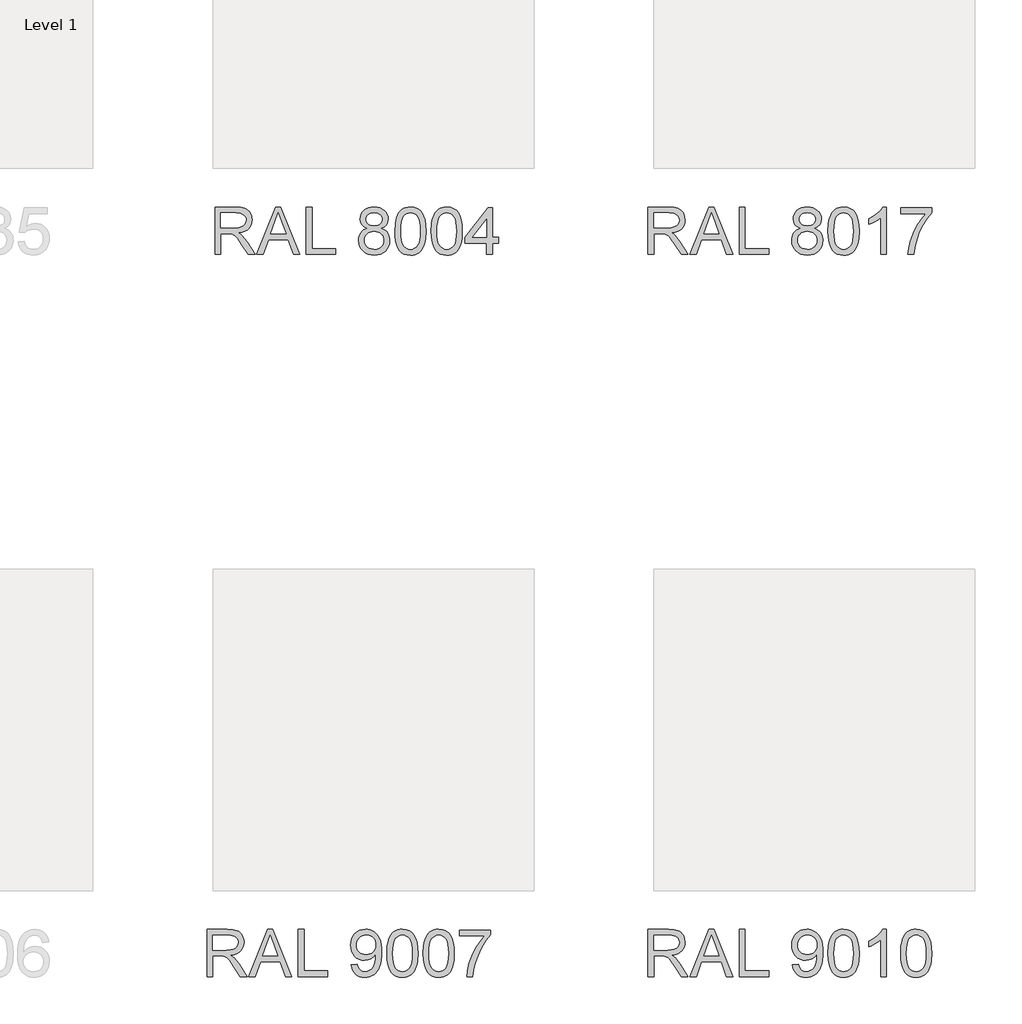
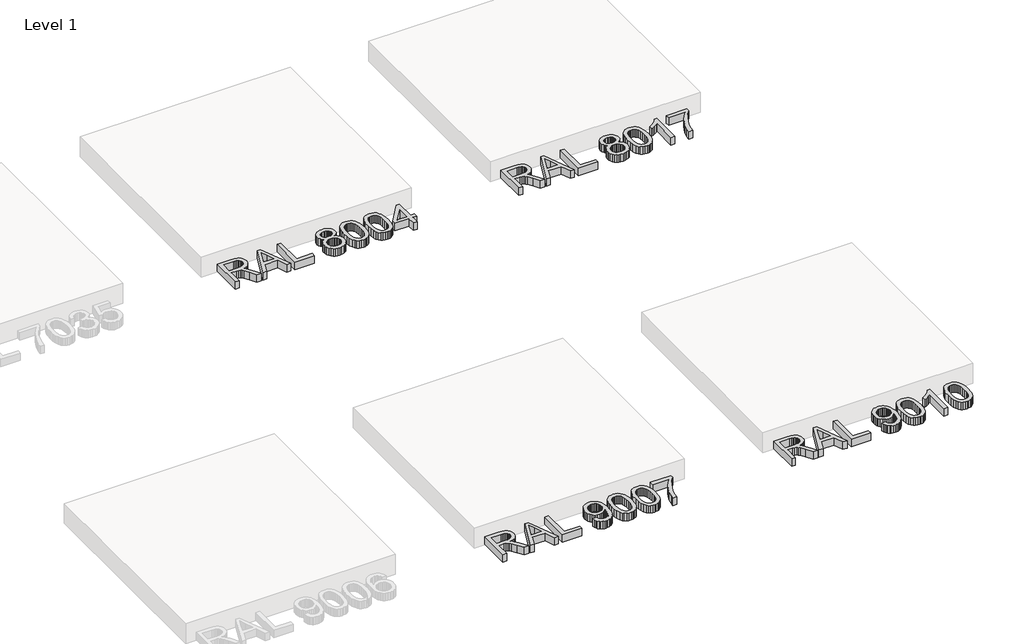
# One storey, part 14 of 27: 4 proxies.
"""IFC4 building model written with IfcOpenShell, lengths in millimetres."""

import ifcopenshell
import ifcopenshell.guid

model = None  # the IFC model being written
_history = None  # IfcOwnerHistory: only IFC2X3 demands one
_inside = {}  # id of a spatial element -> (the spatial element, [elements in it])
_under = {}  # id of a project, library or spatial element -> (it, [spatial elements below it])
_declared = {}  # id of a project -> (the project, [libraries it declares])
_typed = {}  # id of a type object -> (the type object, [elements of that type])
_made_of = {}  # id of a material, layer set ... -> (it, [elements and type objects made of it])


def new_model(schema):
    """Start an empty IFC model of exactly this schema.

    Asked for "IFC4X3", IfcOpenShell would pick the latest addendum, in which some entities
    have other attributes; the version numbers below select the first issue.
    IFC2X3 requires an IfcOwnerHistory on every rooted entity: one is made here for all.
    """
    global model, _history
    if schema == "IFC4X3":
        model = ifcopenshell.file(schema_version=(4, 3, 0, 0))
    else:
        model = ifcopenshell.file(schema=schema)
    _inside.clear()
    _under.clear()
    _declared.clear()
    _typed.clear()
    _made_of.clear()
    _history = None
    if model.schema == "IFC2X3":
        org = make("IfcOrganization", Name="unknown")
        user = make(
            "IfcPersonAndOrganization",
            ThePerson=make("IfcPerson", FamilyName="unknown"),
            TheOrganization=org,
        )
        app = make(
            "IfcApplication",
            ApplicationDeveloper=org,
            Version="unknown",
            ApplicationFullName="unknown",
            ApplicationIdentifier="unknown",
        )
        _history = make(
            "IfcOwnerHistory",
            OwningUser=user,
            OwningApplication=app,
            ChangeAction="ADDED",
            CreationDate=0,
        )
    return model


def make(cls, **values):
    """One entity of the class cls with the attributes given. An attribute that is None is left unset."""
    return model.create_entity(
        cls, **{name: value for name, value in values.items() if value is not None}
    )


def rooted(cls, **values):
    """An entity with a GlobalId (a new one), such as an element, a storey or a relation."""
    return make(cls, GlobalId=ifcopenshell.guid.new(), OwnerHistory=_history, **values)


def si_unit(unit_type, name, prefix=None):
    """IfcSIUnit, for example si_unit("LENGTHUNIT", "METRE", prefix="MILLI")."""
    return make("IfcSIUnit", UnitType=unit_type, Prefix=prefix, Name=name)


def assignment(units):
    """IfcUnitAssignment: the units of a project."""
    return None if units is None else make("IfcUnitAssignment", Units=units)


def point(xyz):
    """IfcCartesianPoint."""
    return None if xyz is None else make("IfcCartesianPoint", Coordinates=xyz)


def direction(xyz):
    """IfcDirection."""
    return None if xyz is None else make("IfcDirection", DirectionRatios=xyz)


def frame(location, z_axis=None, x_axis=None):
    """IfcAxis2Placement3D, a coordinate frame: its origin and axes. An axis left out is left unset."""
    return make(
        "IfcAxis2Placement3D",
        Location=point(location),
        Axis=direction(z_axis),
        RefDirection=direction(x_axis),
    )


def origin():
    """The frame at (0, 0, 0) with its axes left unset."""
    return frame((0.0, 0.0, 0.0))


def origin_with_axes():
    """The frame at (0, 0, 0) with the z axis (0, 0, 1) and the x axis (1, 0, 0) written out."""
    return frame((0.0, 0.0, 0.0), z_axis=(0.0, 0.0, 1.0), x_axis=(1.0, 0.0, 0.0))


def place(relative_to, where):
    """IfcLocalPlacement: puts the frame where relative to a parent placement (None: the world)."""
    return make(
        "IfcLocalPlacement", PlacementRelTo=relative_to, RelativePlacement=where
    )


def context(
    kind, dimensions, precision=None, world=None, true_north=None, identifier=None
):
    """IfcGeometricRepresentationContext, for example the 3D "Model" context."""
    return make(
        "IfcGeometricRepresentationContext",
        ContextIdentifier=identifier,
        ContextType=kind,
        CoordinateSpaceDimension=dimensions,
        Precision=precision,
        WorldCoordinateSystem=world,
        TrueNorth=true_north,
    )


def project(units=None, contexts=None):
    """IfcProject with its units and contexts."""
    return rooted(
        "IfcProject",
        Name="project",
        RepresentationContexts=contexts,
        UnitsInContext=assignment(units),
    )


def spatial(cls, under=None, at=None, **own):
    """A site, building, storey or space (cls), placed at a placement, below another one or the project."""
    s = rooted(cls, ObjectPlacement=at, **own)
    if under is not None:
        _under.setdefault(under.id(), (under, []))[1].append(s)
    return s


def polyline(points):
    """IfcPolyline through the points."""
    return make("IfcPolyline", Points=[point(p) for p in points])


def outline(outer, holes=None, kind="AREA"):
    """IfcArbitraryClosedProfileDef: a profile drawn as a closed curve; with holes, ...WithVoids."""
    if holes is None:
        return make("IfcArbitraryClosedProfileDef", ProfileType=kind, OuterCurve=outer)
    return make(
        "IfcArbitraryProfileDefWithVoids",
        ProfileType=kind,
        OuterCurve=outer,
        InnerCurves=holes,
    )


def extrude(swept, where, along, depth):
    """IfcExtrudedAreaSolid: the profile swept, set in the frame where, extruded along a direction by depth."""
    return make(
        "IfcExtrudedAreaSolid",
        SweptArea=swept,
        Position=where,
        ExtrudedDirection=direction(along),
        Depth=depth,
    )


def shape(context_of_items, identifier, shape_type, items):
    """IfcShapeRepresentation: the items that make up one representation, for example the "Body"."""
    return make(
        "IfcShapeRepresentation",
        ContextOfItems=context_of_items,
        RepresentationIdentifier=identifier,
        RepresentationType=shape_type,
        Items=items,
    )


def made_of(thing, what):
    """Note that an element or type object is made of a material, layer set ...; save() writes the relation."""
    if what is not None:
        _made_of.setdefault(what.id(), (what, []))[1].append(thing)
    return thing


def element(
    cls,
    number,
    at=None,
    inside=None,
    cuts=None,
    type_object=None,
    material=None,
    context=None,
    identifier="Body",
    shape_type=None,
    held_by="IfcProductDefinitionShape",
    body=None,
    shapes=None,
    **own,
):
    """One element of the class cls, such as IfcWall. Its Tag is "e" and its number.

    at: its placement. inside: the storey or other place that contains it. cuts: it is an
    opening in that element (IfcRelVoidsElement). A single representation is given by context,
    identifier, shape_type and body (its items); several are given by shapes. held_by: the class
    of the entity that holds the representations. save() writes the other relations.
    """
    e = rooted(cls, Tag="e%d" % number, ObjectPlacement=at, **own)
    if body is not None:
        shapes = [shape(context, identifier, shape_type, body)]
    if shapes is not None:
        e.Representation = make(held_by, Representations=shapes)
    if inside is not None:
        _inside.setdefault(inside.id(), (inside, []))[1].append(e)
    if cuts is not None:
        rooted(
            "IfcRelVoidsElement", RelatingBuildingElement=cuts, RelatedOpeningElement=e
        )
    if type_object is not None:
        _typed.setdefault(type_object.id(), (type_object, []))[1].append(e)
    return made_of(e, material)


def aggregate(whole, parts):
    """IfcRelAggregates: a whole, such as a stair, and the parts it consists of."""
    return rooted("IfcRelAggregates", RelatingObject=whole, RelatedObjects=parts)


def save(model, path):
    """Write the relations noted so far, then the file.

    IfcRelAggregates (storeys below a building ...), IfcRelContainedInSpatialStructure (elements
    in a storey), IfcRelDefinesByType, IfcRelAssociatesMaterial and IfcRelDeclares: one each for
    every whole, place, type object, material and project.
    """
    for whole, parts in _under.values():
        aggregate(whole, parts)
    for where, things in _inside.values():
        rooted(
            "IfcRelContainedInSpatialStructure",
            RelatedElements=things,
            RelatingStructure=where,
        )
    for kind, things in _typed.values():
        rooted("IfcRelDefinesByType", RelatedObjects=things, RelatingType=kind)
    for what, things in _made_of.values():
        rooted("IfcRelAssociatesMaterial", RelatedObjects=things, RelatingMaterial=what)
    for by, libraries in _declared.values():
        rooted("IfcRelDeclares", RelatingContext=by, RelatedDefinitions=libraries)
    model.write(path)


model = new_model("IFC4")

# Units and contexts
model_context = context("Model", 3, world=origin())
ifc_project = project(units=[si_unit("LENGTHUNIT", "METRE", prefix="MILLI")], contexts=[model_context])

# Site, building, storey
site = spatial("IfcSite", under=ifc_project)
building = spatial("IfcBuilding", under=site)
storey = spatial("IfcBuildingStorey", under=building, Name="Level 1", Elevation=0.0)

# Proxies
placement = place(None, origin())
element("IfcBuildingElementProxy", 1, Name="600mm Arial", ObjectType="600mm Arial", at=placement, inside=storey, context=model_context, shape_type="SweptSolid", body=[
    extrude(outline(polyline([(3859.513977, -66508.2089819), (3859.513977, -65917.4397512), (4114.0812847, -65917.4397512), (4182.5007559, -65921.4241262), (4232.2784001, -65933.3772512), (4251.4881357, -65942.8784531), (4268.6606116, -65955.4445588), (4283.795828, -65971.0755685), (4296.8937847, -65989.7714819), (4307.4631958, -66010.5271911), (4315.0127751, -66032.3375877), (4321.0524386, -66079.1224435), (4318.5509362, -66109.4649915), (4311.046429, -66137.3195588), (4298.5389169, -66162.6861454), (4281.0284001, -66185.5647512), (4258.2895179, -66205.2252079), (4230.0969097, -66220.9373473), (4196.4505756, -66232.7011694), (4157.3505155, -66240.5166742), (4181.6894578, -66256.4181165), (4199.3216693, -66272.1032127), (4259.1774386, -66348.1128281), (4357.687054, -66508.2089819), (4271.8697463, -66508.2089819), (4194.9947463, -66385.7570588), (4139.4659001, -66304.6993665), (4118.8228713, -66281.0635492), (4100.451477, -66266.4060973), (4065.3312847, -66252.3435973), (4022.4947463, -66249.7474435), (3933.3601309, -66249.7474435), (3933.3601309, -66508.2089819), (3859.513977, -66508.2089819)]), holes=[polyline([(3933.3601309, -66175.9012896), (4098.6485924, -66175.9012896), (4146.1185443, -66173.2871069), (4182.951477, -66165.4445588), (4210.6798424, -66151.8508088), (4230.8360924, -66131.9830204), (4243.1137366, -66107.9505685), (4247.2062847, -66081.8628281), (4245.2546621, -66062.9776117), (4239.3997943, -66045.8411935), (4229.6416814, -66030.4535733), (4215.9803232, -66016.8147512), (4198.100215, -66005.645881), (4175.685852, -65997.6681165), (4148.7372342, -65992.8814579), (4117.2543616, -65991.285905), (3933.3601309, -65991.285905), (3933.3601309, -66175.9012896)])]), origin_with_axes(), (0.0, 0.0, 1.0), 150.0),
    extrude(outline(polyline([(4381.4851309, -66508.2089819), (4617.3024386, -65917.4397512), (4680.187054, -65917.4397512), (4916.0043616, -66508.2089819), (4837.9755155, -66508.2089819), (4770.3312847, -66323.5935973), (4527.013977, -66323.5935973), (4459.513977, -66508.2089819), (4381.4851309, -66508.2089819)]), holes=[polyline([(4554.1293616, -66249.7474435), (4743.3601309, -66249.7474435), (4690.138977, -66104.5070588), (4648.7447463, -65991.285905), (4611.9659001, -66091.8147512), (4554.1293616, -66249.7474435)])]), origin_with_axes(), (0.0, 0.0, 1.0), 150.0),
    extrude(outline(polyline([(4994.8985924, -66508.2089819), (4994.8985924, -65917.4397512), (5068.7447463, -65917.4397512), (5068.7447463, -66434.3628281), (5364.1293616, -66434.3628281), (5364.1293616, -66508.2089819), (4994.8985924, -66508.2089819)])), origin_with_axes(), (0.0, 0.0, 1.0), 150.0),
    extrude(outline(polyline([(5757.8793616, -66182.8243665), (5718.342102, -66163.3532127), (5702.9950467, -66151.0214819), (5690.5957078, -66136.9589819), (5674.2074866, -66104.1825396), (5668.7447463, -66065.5647512), (5671.7195059, -66035.4475637), (5680.6437847, -66007.8363858), (5695.5175828, -65982.7312175), (5716.3409001, -65960.1320588), (5742.1131357, -65941.4541742), (5771.8336886, -65928.1128281), (5805.5025588, -65920.1080204), (5843.1197463, -65917.4397512), (5880.9172222, -65920.1711213), (5914.8384963, -65928.3652319), (5944.8835684, -65942.0220829), (5971.0524386, -65961.1416742), (5992.2543616, -65984.1825396), (6007.3985924, -66009.6032127), (6016.4851309, -66037.4036935), (6019.513977, -66067.5839819), (6014.123352, -66104.95778), (5997.951477, -66137.1753281), (5970.8180636, -66163.4072992), (5932.5428232, -66182.8243665), (5956.8141573, -66193.1503882), (5977.9935443, -66206.2438377), (5996.0809842, -66222.1047151), (6011.076477, -66240.7330204), (6022.8448064, -66261.7140901), (6031.2507559, -66284.6332608), (6036.2943256, -66309.4905324), (6037.9755155, -66336.285905), (6034.640179, -66373.1188377), (6024.6341693, -66406.8868665), (6007.9574866, -66437.5899915), (5984.6101309, -66465.2282127), (5955.8180636, -66488.0707608), (5922.8072463, -66504.3868665), (5885.577679, -66514.17653), (5844.1293616, -66517.4397512), (5802.6810443, -66514.1630084), (5765.451477, -66504.33278), (5732.4406597, -66487.9490661), (5703.6485924, -66465.0118665), (5680.3012366, -66437.1798353), (5663.624554, -66406.1116262), (5653.6185443, -66371.8072391), (5650.2832078, -66334.2666742), (5652.0320059, -66306.2498473), (5657.2784001, -66280.6128281), (5666.0223905, -66257.3556165), (5678.263977, -66236.4782127), (5693.732727, -66218.3592223), (5712.1582078, -66203.3772512), (5733.5404193, -66191.5322992), (5757.8793616, -66182.8243665)]), holes=[polyline([(5742.5909001, -66067.7282127), (5744.2270179, -66084.6572992), (5749.1353713, -66099.9637896), (5757.3159602, -66113.6476838), (5768.7687847, -66125.7089819), (5783.349614, -66135.5527319), (5800.9142174, -66142.5839819), (5844.9947463, -66148.2089819), (5888.0476309, -66142.6200396), (5905.3012366, -66135.6338617), (5919.7062847, -66125.8532127), (5931.0644578, -66114.0443185), (5939.1774386, -66100.973405), (5944.045227, -66086.6404723), (5945.6678232, -66071.0455204), (5943.9911405, -66054.8420949), (5938.9610924, -66039.9818185), (5930.577679, -66026.4646911), (5918.8409001, -66014.2907127), (5904.1113328, -66004.2261093), (5886.749554, -65997.0371069), (5866.7555636, -65992.7237055), (5844.1293616, -65991.285905), (5801.2387366, -65996.910905), (5783.8634362, -66003.942155), (5769.201477, -66013.785905), (5757.5593496, -66025.5947992), (5749.2435443, -66038.5214819), (5744.2540612, -66052.5659531), (5742.5909001, -66067.7282127)]), polyline([(5724.1293616, -66331.6705204), (5727.2122943, -66359.9217223), (5736.4610924, -66387.2714819), (5753.5344097, -66411.1236454), (5780.0909001, -66428.8820588), (5811.8937847, -66439.9157127), (5844.7062847, -66443.5935973), (5871.4070059, -66441.6600036), (5894.9707078, -66435.8592223), (5915.3973905, -66426.1912536), (5932.687054, -66412.6560973), (5946.4430636, -66396.137167), (5956.2687847, -66377.5178762), (5962.1642174, -66356.7982247), (5964.1293616, -66333.9782127), (5962.1011165, -66310.7931165), (5956.0163809, -66289.6993665), (5945.8751549, -66270.6969627), (5931.6774386, -66253.785905), (5913.9190251, -66239.9036935), (5893.0957078, -66229.9878281), (5869.2074866, -66224.0383088), (5842.2543616, -66222.0551358), (5815.9457679, -66224.0112656), (5792.6930636, -66229.879655), (5772.4962487, -66239.660304), (5755.3553232, -66253.3532127), (5741.693965, -66269.9848233), (5731.935852, -66288.5815781), (5726.0809842, -66309.1434771), (5724.1293616, -66331.6705204)])]), origin_with_axes(), (0.0, 0.0, 1.0), 150.0),
    extrude(outline(polyline([(6102.5909001, -66217.5839819), (6108.0175828, -66123.0226838), (6114.8009362, -66082.9220228), (6124.2976309, -66047.6080204), (6136.467102, -66016.7922151), (6151.2687847, -65990.1861454), (6168.702679, -65967.7898113), (6188.7687847, -65949.6032127), (6211.5347102, -65935.5316983), (6237.0680636, -65925.4806165), (6265.3688448, -65919.4499675), (6296.437054, -65917.4397512), (6341.9418616, -65922.1993665), (6382.687054, -65936.4782127), (6416.7615732, -65959.7173954), (6442.2543616, -65991.3580204), (6461.5091693, -66031.129655), (6476.8697463, -66078.7618665), (6486.9298424, -66139.2486454), (6490.2832078, -66217.5839819), (6484.9106116, -66311.6044146), (6478.1948665, -66351.5698593), (6468.7928232, -66386.8387896), (6456.7180035, -66417.6681165), (6441.983929, -66444.3147512), (6424.5905996, -66466.7786935), (6404.5380155, -66485.0599435), (6381.7450467, -66499.2261093), (6356.1305636, -66509.3447992), (6327.694566, -66515.4160132), (6296.437054, -66517.4397512), (6255.763977, -66513.9241262), (6219.7062847, -66503.3772512), (6188.263977, -66485.7991262), (6161.437054, -66461.1897512), (6135.6918616, -66416.7035733), (6117.3024386, -66361.2738858), (6106.2687847, -66294.9006887), (6102.5909001, -66217.5839819)]), holes=[polyline([(6176.437054, -66217.4397512), (6178.6005155, -66281.6359651), (6185.0909001, -66333.5996069), (6195.9082078, -66373.3306766), (6211.0524386, -66400.8291742), (6229.3697463, -66419.5386093), (6249.7062847, -66432.9024915), (6272.062054, -66440.9208209), (6296.437054, -66443.5935973), (6320.812054, -66440.9118064), (6343.1678232, -66432.8664338), (6363.5043616, -66419.4574795), (6381.8216693, -66400.6849435), (6396.9659001, -66373.1413738), (6407.7832078, -66333.4193185), (6414.2735924, -66281.5187776), (6416.437054, -66217.4397512), (6414.3457078, -66154.942756), (6408.0716693, -66103.8940781), (6397.6149386, -66064.2937175), (6382.9755155, -66036.1416742), (6364.9646982, -66016.5172752), (6344.3937847, -66002.4998473), (6321.2627751, -65994.0893906), (6295.5716693, -65991.285905), (6271.3228713, -65993.7558569), (6249.3457078, -66001.1657127), (6229.640179, -66013.5154723), (6212.2062847, -66030.8051358), (6196.5572463, -66061.4541742), (6185.3793616, -66102.7762896), (6178.6726309, -66154.7714819), (6176.437054, -66217.4397512)])]), origin_with_axes(), (0.0, 0.0, 1.0), 150.0),
    extrude(outline(polyline([(6831.8216693, -66508.2089819), (6757.9755155, -66508.2089819), (6757.9755155, -66047.8243665), (6727.1461886, -66072.7582608), (6688.0235924, -66097.6560973), (6646.9538809, -66119.4169146), (6610.2832078, -66134.9397512), (6610.2832078, -66065.1320588), (6668.2820059, -66033.5815781), (6718.5284001, -65996.0455204), (6758.1377751, -65956.129655), (6784.2255155, -65917.4397512), (6831.8216693, -65917.4397512), (6831.8216693, -66508.2089819)])), origin_with_axes(), (0.0, 0.0, 1.0), 150.0),
    extrude(outline(polyline([(7007.2062847, -66000.5166742), (7007.2062847, -65926.6705204), (7394.8985924, -65926.6705204), (7394.8985924, -65986.3820588), (7339.640179, -66056.3159531), (7284.9226309, -66145.2522512), (7236.6594097, -66245.0779723), (7200.763977, -66347.6801358), (7183.1678232, -66424.4469627), (7173.3601309, -66508.2089819), (7099.513977, -66508.2089819), (7107.5007559, -66432.0911935), (7128.8649386, -66341.6224435), (7163.029602, -66245.7270108), (7209.4178232, -66153.3291742), (7263.576477, -66069.80153), (7321.0524386, -66000.5166742), (7007.2062847, -66000.5166742)])), origin_with_axes(), (0.0, 0.0, 1.0), 150.0),
])
element("IfcBuildingElementProxy", 2, Name="600mm Arial", ObjectType="600mm Arial", at=placement, inside=storey, context=model_context, shape_type="SweptSolid", body=[
    extrude(outline(polyline([(3859.513977, -75508.2089819), (3859.513977, -74917.4397512), (4114.0812847, -74917.4397512), (4182.5007559, -74921.4241262), (4232.2784001, -74933.3772512), (4251.4881357, -74942.8784531), (4268.6606116, -74955.4445588), (4283.795828, -74971.0755685), (4296.8937847, -74989.7714819), (4307.4631958, -75010.5271911), (4315.0127751, -75032.3375877), (4321.0524386, -75079.1224435), (4318.5509362, -75109.4649915), (4311.046429, -75137.3195588), (4298.5389169, -75162.6861454), (4281.0284001, -75185.5647512), (4258.2895179, -75205.2252079), (4230.0969097, -75220.9373473), (4196.4505756, -75232.7011694), (4157.3505155, -75240.5166742), (4181.6894578, -75256.4181165), (4199.3216693, -75272.1032127), (4259.1774386, -75348.1128281), (4357.687054, -75508.2089819), (4271.8697463, -75508.2089819), (4194.9947463, -75385.7570588), (4139.4659001, -75304.6993665), (4118.8228713, -75281.0635492), (4100.451477, -75266.4060973), (4065.3312847, -75252.3435973), (4022.4947463, -75249.7474435), (3933.3601309, -75249.7474435), (3933.3601309, -75508.2089819), (3859.513977, -75508.2089819)]), holes=[polyline([(3933.3601309, -75175.9012896), (4098.6485924, -75175.9012896), (4146.1185443, -75173.2871069), (4182.951477, -75165.4445588), (4210.6798424, -75151.8508088), (4230.8360924, -75131.9830204), (4243.1137366, -75107.9505685), (4247.2062847, -75081.8628281), (4245.2546621, -75062.9776117), (4239.3997943, -75045.8411935), (4229.6416814, -75030.4535733), (4215.9803232, -75016.8147512), (4198.100215, -75005.645881), (4175.685852, -74997.6681165), (4148.7372342, -74992.8814579), (4117.2543616, -74991.285905), (3933.3601309, -74991.285905), (3933.3601309, -75175.9012896)])]), origin_with_axes(), (0.0, 0.0, 1.0), 150.0),
    extrude(outline(polyline([(4381.4851309, -75508.2089819), (4617.3024386, -74917.4397512), (4680.187054, -74917.4397512), (4916.0043616, -75508.2089819), (4837.9755155, -75508.2089819), (4770.3312847, -75323.5935973), (4527.013977, -75323.5935973), (4459.513977, -75508.2089819), (4381.4851309, -75508.2089819)]), holes=[polyline([(4554.1293616, -75249.7474435), (4743.3601309, -75249.7474435), (4690.138977, -75104.5070588), (4648.7447463, -74991.285905), (4611.9659001, -75091.8147512), (4554.1293616, -75249.7474435)])]), origin_with_axes(), (0.0, 0.0, 1.0), 150.0),
    extrude(outline(polyline([(4994.8985924, -75508.2089819), (4994.8985924, -74917.4397512), (5068.7447463, -74917.4397512), (5068.7447463, -75434.3628281), (5364.1293616, -75434.3628281), (5364.1293616, -75508.2089819), (4994.8985924, -75508.2089819)])), origin_with_axes(), (0.0, 0.0, 1.0), 150.0),
    extrude(outline(polyline([(5659.513977, -75360.5166742), (5733.3601309, -75351.285905), (5745.9803232, -75393.2029723), (5755.265179, -75409.1449795), (5766.5332078, -75421.7426358), (5779.6582078, -75431.3024314), (5794.513977, -75438.1308569), (5829.4178232, -75443.5935973), (5860.733929, -75440.0779723), (5889.201477, -75429.5310973), (5912.8553232, -75413.1068185), (5929.7303232, -75391.9589819), (5942.5127751, -75364.1585012), (5953.888977, -75327.7762896), (5961.8937847, -75286.0214819), (5964.562054, -75242.1032127), (5964.1293616, -75227.6801358), (5938.546429, -75258.9060973), (5905.0668616, -75283.6416742), (5866.1065251, -75299.7594627), (5824.0812847, -75305.1320588), (5789.0016573, -75301.8508088), (5756.7435443, -75292.0070588), (5727.3069458, -75275.6008088), (5700.6918616, -75252.6320588), (5678.6380756, -75224.2997271), (5662.8853713, -75191.8027319), (5653.4337487, -75155.1410733), (5650.2832078, -75114.3147512), (5653.5869939, -75072.1272512), (5663.498352, -75034.2666742), (5680.0172823, -75000.7330204), (5703.1437847, -74971.5262896), (5731.2462487, -74947.863429), (5762.6930636, -74930.9613858), (5797.4842294, -74920.8201598), (5835.6197463, -74917.4397512), (5863.7762967, -74919.3688377), (5890.6978713, -74925.1560973), (5916.3844698, -74934.80153), (5940.8360924, -74948.3051358), (5963.2369338, -74965.3784531), (5982.7711886, -74985.7330204), (5999.4388568, -75009.3688377), (6013.2399386, -75036.285905), (6024.0617535, -75068.0347031), (6031.7916213, -75106.1657127), (6036.4295419, -75150.6789338), (6037.9755155, -75201.5743665), (6036.4340491, -75255.0253882), (6031.8096501, -75302.7342223), (6024.1023184, -75344.7008689), (6013.312054, -75380.9253281), (5999.4794217, -75412.2910132), (5982.6449866, -75439.6813377), (5962.8087487, -75463.0963016), (5939.9707078, -75482.535905), (5914.5905996, -75497.8063377), (5887.1281597, -75508.7137896), (5857.5833881, -75515.2582608), (5825.9562847, -75517.4397512), (5792.7922222, -75514.8661334), (5762.8192655, -75507.14528), (5736.0374145, -75494.2771911), (5712.4466693, -75476.2618665), (5692.6419818, -75453.5860853), (5677.218304, -75426.7366262), (5666.1756357, -75395.7134891), (5659.513977, -75360.5166742)]), holes=[polyline([(5964.1293616, -75112.5839819), (5962.1371741, -75086.1176358), (5956.1606116, -75062.535905), (5946.1996741, -75041.8387896), (5932.2543616, -75024.0262896), (5915.0097703, -75009.7023713), (5895.1509963, -74999.4710012), (5872.6780395, -74993.332179), (5847.5909001, -74991.285905), (5821.701477, -74993.4899314), (5798.263977, -75000.1020108), (5777.2784001, -75011.122143), (5758.7447463, -75026.5503281), (5743.6005155, -75045.4851238), (5732.7832078, -75067.0250877), (5726.2928232, -75091.1702199), (5724.1293616, -75117.9205204), (5726.1756357, -75141.9124074), (5732.3144578, -75163.55153), (5742.545828, -75182.8378882), (5756.8697463, -75199.7714819), (5774.6912607, -75213.559042), (5795.4154193, -75223.4072992), (5819.0422222, -75229.3162536), (5845.5716693, -75231.285905), (5870.3117535, -75229.3162536), (5892.7531597, -75223.4072992), (5912.8958881, -75213.559042), (5930.7399386, -75199.7714819), (5945.3478112, -75182.5043545), (5955.7820059, -75162.2173954), (5962.0425227, -75138.9106045), (5964.1293616, -75112.5839819)])]), origin_with_axes(), (0.0, 0.0, 1.0), 150.0),
    extrude(outline(polyline([(6102.5909001, -75217.5839819), (6108.0175828, -75123.0226838), (6114.8009362, -75082.9220228), (6124.2976309, -75047.6080204), (6136.467102, -75016.7922151), (6151.2687847, -74990.1861454), (6168.702679, -74967.7898113), (6188.7687847, -74949.6032127), (6211.5347102, -74935.5316983), (6237.0680636, -74925.4806165), (6265.3688448, -74919.4499675), (6296.437054, -74917.4397512), (6341.9418616, -74922.1993665), (6382.687054, -74936.4782127), (6416.7615732, -74959.7173954), (6442.2543616, -74991.3580204), (6461.5091693, -75031.129655), (6476.8697463, -75078.7618665), (6486.9298424, -75139.2486454), (6490.2832078, -75217.5839819), (6484.9106116, -75311.6044146), (6478.1948665, -75351.5698593), (6468.7928232, -75386.8387896), (6456.7180035, -75417.6681165), (6441.983929, -75444.3147512), (6424.5905996, -75466.7786935), (6404.5380155, -75485.0599435), (6381.7450467, -75499.2261093), (6356.1305636, -75509.3447992), (6327.694566, -75515.4160132), (6296.437054, -75517.4397512), (6255.763977, -75513.9241262), (6219.7062847, -75503.3772512), (6188.263977, -75485.7991262), (6161.437054, -75461.1897512), (6135.6918616, -75416.7035733), (6117.3024386, -75361.2738858), (6106.2687847, -75294.9006887), (6102.5909001, -75217.5839819)]), holes=[polyline([(6176.437054, -75217.4397512), (6178.6005155, -75281.6359651), (6185.0909001, -75333.5996069), (6195.9082078, -75373.3306766), (6211.0524386, -75400.8291742), (6229.3697463, -75419.5386093), (6249.7062847, -75432.9024915), (6272.062054, -75440.9208209), (6296.437054, -75443.5935973), (6320.812054, -75440.9118064), (6343.1678232, -75432.8664338), (6363.5043616, -75419.4574795), (6381.8216693, -75400.6849435), (6396.9659001, -75373.1413738), (6407.7832078, -75333.4193185), (6414.2735924, -75281.5187776), (6416.437054, -75217.4397512), (6414.3457078, -75154.942756), (6408.0716693, -75103.8940781), (6397.6149386, -75064.2937175), (6382.9755155, -75036.1416742), (6364.9646982, -75016.5172752), (6344.3937847, -75002.4998473), (6321.2627751, -74994.0893906), (6295.5716693, -74991.285905), (6271.3228713, -74993.7558569), (6249.3457078, -75001.1657127), (6229.640179, -75013.5154723), (6212.2062847, -75030.8051358), (6196.5572463, -75061.4541742), (6185.3793616, -75102.7762896), (6178.6726309, -75154.7714819), (6176.437054, -75217.4397512)])]), origin_with_axes(), (0.0, 0.0, 1.0), 150.0),
    extrude(outline(polyline([(6831.8216693, -75508.2089819), (6757.9755155, -75508.2089819), (6757.9755155, -75047.8243665), (6727.1461886, -75072.7582608), (6688.0235924, -75097.6560973), (6646.9538809, -75119.4169146), (6610.2832078, -75134.9397512), (6610.2832078, -75065.1320588), (6668.2820059, -75033.5815781), (6718.5284001, -74996.0455204), (6758.1377751, -74956.129655), (6784.2255155, -74917.4397512), (6831.8216693, -74917.4397512), (6831.8216693, -75508.2089819)])), origin_with_axes(), (0.0, 0.0, 1.0), 150.0),
    extrude(outline(polyline([(7007.2062847, -75217.5839819), (7012.6329674, -75123.0226838), (7019.4163208, -75082.9220228), (7028.9130155, -75047.6080204), (7041.0824866, -75016.7922151), (7055.8841693, -74990.1861454), (7073.3180636, -74967.7898113), (7093.3841693, -74949.6032127), (7116.1500948, -74935.5316983), (7141.6834482, -74925.4806165), (7169.9842294, -74919.4499675), (7201.0524386, -74917.4397512), (7246.5572463, -74922.1993665), (7287.3024386, -74936.4782127), (7321.3769578, -74959.7173954), (7346.8697463, -74991.3580204), (7366.124554, -75031.129655), (7381.4851309, -75078.7618665), (7391.545227, -75139.2486454), (7394.8985924, -75217.5839819), (7389.5259963, -75311.6044146), (7382.8102511, -75351.5698593), (7373.4082078, -75386.8387896), (7361.3333881, -75417.6681165), (7346.5993136, -75444.3147512), (7329.2059842, -75466.7786935), (7309.1534001, -75485.0599435), (7286.3604314, -75499.2261093), (7260.7459482, -75509.3447992), (7232.3099506, -75515.4160132), (7201.0524386, -75517.4397512), (7160.3793616, -75513.9241262), (7124.3216693, -75503.3772512), (7092.8793616, -75485.7991262), (7066.0524386, -75461.1897512), (7040.3072463, -75416.7035733), (7021.9178232, -75361.2738858), (7010.8841693, -75294.9006887), (7007.2062847, -75217.5839819)]), holes=[polyline([(7081.0524386, -75217.4397512), (7083.2159001, -75281.6359651), (7089.7062847, -75333.5996069), (7100.5235924, -75373.3306766), (7115.6678232, -75400.8291742), (7133.9851309, -75419.5386093), (7154.3216693, -75432.9024915), (7176.6774386, -75440.9208209), (7201.0524386, -75443.5935973), (7225.4274386, -75440.9118064), (7247.7832078, -75432.8664338), (7268.1197463, -75419.4574795), (7286.437054, -75400.6849435), (7301.5812847, -75373.1413738), (7312.3985924, -75333.4193185), (7318.888977, -75281.5187776), (7321.0524386, -75217.4397512), (7318.9610924, -75154.942756), (7312.687054, -75103.8940781), (7302.2303232, -75064.2937175), (7287.5909001, -75036.1416742), (7269.5800828, -75016.5172752), (7249.0091693, -75002.4998473), (7225.8781597, -74994.0893906), (7200.187054, -74991.285905), (7175.9382559, -74993.7558569), (7153.9610924, -75001.1657127), (7134.2555636, -75013.5154723), (7116.8216693, -75030.8051358), (7101.1726309, -75061.4541742), (7089.9947463, -75102.7762896), (7083.2880155, -75154.7714819), (7081.0524386, -75217.4397512)])]), origin_with_axes(), (0.0, 0.0, 1.0), 150.0),
])
element("IfcBuildingElementProxy", 3, Name="600mm Arial", ObjectType="600mm Arial", at=placement, inside=storey, context=model_context, shape_type="SweptSolid", body=[
    extrude(outline(polyline([(-1640.486023, -75508.2089819), (-1640.486023, -74917.4397512), (-1385.9187153, -74917.4397512), (-1317.4992441, -74921.4241262), (-1267.7215999, -74933.3772512), (-1248.5118643, -74942.8784531), (-1231.3393884, -74955.4445588), (-1216.204172, -74971.0755685), (-1203.1062153, -74989.7714819), (-1192.5368042, -75010.5271911), (-1184.9872249, -75032.3375877), (-1178.9475614, -75079.1224435), (-1181.4490638, -75109.4649915), (-1188.953571, -75137.3195588), (-1201.4610831, -75162.6861454), (-1218.9715999, -75185.5647512), (-1241.7104821, -75205.2252079), (-1269.9030903, -75220.9373473), (-1303.5494244, -75232.7011694), (-1342.6494845, -75240.5166742), (-1318.3105422, -75256.4181165), (-1300.6783307, -75272.1032127), (-1240.8225614, -75348.1128281), (-1142.312946, -75508.2089819), (-1228.1302537, -75508.2089819), (-1305.0052537, -75385.7570588), (-1360.5340999, -75304.6993665), (-1381.1771287, -75281.0635492), (-1399.548523, -75266.4060973), (-1434.6687153, -75252.3435973), (-1477.5052537, -75249.7474435), (-1566.6398691, -75249.7474435), (-1566.6398691, -75508.2089819), (-1640.486023, -75508.2089819)]), holes=[polyline([(-1566.6398691, -75175.9012896), (-1401.3514076, -75175.9012896), (-1353.8814557, -75173.2871069), (-1317.048523, -75165.4445588), (-1289.3201576, -75151.8508088), (-1269.1639076, -75131.9830204), (-1256.8862634, -75107.9505685), (-1252.7937153, -75081.8628281), (-1254.7453379, -75062.9776117), (-1260.6002057, -75045.8411935), (-1270.3583186, -75030.4535733), (-1284.0196768, -75016.8147512), (-1301.899785, -75005.645881), (-1324.314148, -74997.6681165), (-1351.2627658, -74992.8814579), (-1382.7456384, -74991.285905), (-1566.6398691, -74991.285905), (-1566.6398691, -75175.9012896)])]), origin_with_axes(), (0.0, 0.0, 1.0), 150.0),
    extrude(outline(polyline([(-1118.5148691, -75508.2089819), (-882.6975614, -74917.4397512), (-819.812946, -74917.4397512), (-583.9956384, -75508.2089819), (-662.0244845, -75508.2089819), (-729.6687153, -75323.5935973), (-972.986023, -75323.5935973), (-1040.486023, -75508.2089819), (-1118.5148691, -75508.2089819)]), holes=[polyline([(-945.8706384, -75249.7474435), (-756.6398691, -75249.7474435), (-809.861023, -75104.5070588), (-851.2552537, -74991.285905), (-888.0340999, -75091.8147512), (-945.8706384, -75249.7474435)])]), origin_with_axes(), (0.0, 0.0, 1.0), 150.0),
    extrude(outline(polyline([(-505.1014076, -75508.2089819), (-505.1014076, -74917.4397512), (-431.2552537, -74917.4397512), (-431.2552537, -75434.3628281), (-135.8706384, -75434.3628281), (-135.8706384, -75508.2089819), (-505.1014076, -75508.2089819)])), origin_with_axes(), (0.0, 0.0, 1.0), 150.0),
    extrude(outline(polyline([(159.513977, -75360.5166742), (233.3601309, -75351.285905), (245.9803232, -75393.2029723), (255.265179, -75409.1449795), (266.5332078, -75421.7426358), (279.6582078, -75431.3024314), (294.513977, -75438.1308569), (329.4178232, -75443.5935973), (360.733929, -75440.0779723), (389.201477, -75429.5310973), (412.8553232, -75413.1068185), (429.7303232, -75391.9589819), (442.5127751, -75364.1585012), (453.888977, -75327.7762896), (461.8937847, -75286.0214819), (464.562054, -75242.1032127), (464.1293616, -75227.6801358), (438.546429, -75258.9060973), (405.0668616, -75283.6416742), (366.1065251, -75299.7594627), (324.0812847, -75305.1320588), (289.0016573, -75301.8508088), (256.7435443, -75292.0070588), (227.3069458, -75275.6008088), (200.6918616, -75252.6320588), (178.6380756, -75224.2997271), (162.8853713, -75191.8027319), (153.4337487, -75155.1410733), (150.2832078, -75114.3147512), (153.5869939, -75072.1272512), (163.498352, -75034.2666742), (180.0172823, -75000.7330204), (203.1437847, -74971.5262896), (231.2462487, -74947.863429), (262.6930636, -74930.9613858), (297.4842294, -74920.8201598), (335.6197463, -74917.4397512), (363.7762967, -74919.3688377), (390.6978713, -74925.1560973), (416.3844698, -74934.80153), (440.8360924, -74948.3051358), (463.2369338, -74965.3784531), (482.7711886, -74985.7330204), (499.4388568, -75009.3688377), (513.2399386, -75036.285905), (524.0617535, -75068.0347031), (531.7916213, -75106.1657127), (536.4295419, -75150.6789338), (537.9755155, -75201.5743665), (536.4340491, -75255.0253882), (531.8096501, -75302.7342223), (524.1023184, -75344.7008689), (513.312054, -75380.9253281), (499.4794217, -75412.2910132), (482.6449866, -75439.6813377), (462.8087487, -75463.0963016), (439.9707078, -75482.535905), (414.5905996, -75497.8063377), (387.1281597, -75508.7137896), (357.5833881, -75515.2582608), (325.9562847, -75517.4397512), (292.7922222, -75514.8661334), (262.8192655, -75507.14528), (236.0374145, -75494.2771911), (212.4466693, -75476.2618665), (192.6419818, -75453.5860853), (177.218304, -75426.7366262), (166.1756357, -75395.7134891), (159.513977, -75360.5166742)]), holes=[polyline([(464.1293616, -75112.5839819), (462.1371741, -75086.1176358), (456.1606116, -75062.535905), (446.1996741, -75041.8387896), (432.2543616, -75024.0262896), (415.0097703, -75009.7023713), (395.1509963, -74999.4710012), (372.6780395, -74993.332179), (347.5909001, -74991.285905), (321.701477, -74993.4899314), (298.263977, -75000.1020108), (277.2784001, -75011.122143), (258.7447463, -75026.5503281), (243.6005155, -75045.4851238), (232.7832078, -75067.0250877), (226.2928232, -75091.1702199), (224.1293616, -75117.9205204), (226.1756357, -75141.9124074), (232.3144578, -75163.55153), (242.545828, -75182.8378882), (256.8697463, -75199.7714819), (274.6912607, -75213.559042), (295.4154193, -75223.4072992), (319.0422222, -75229.3162536), (345.5716693, -75231.285905), (370.3117535, -75229.3162536), (392.7531597, -75223.4072992), (412.8958881, -75213.559042), (430.7399386, -75199.7714819), (445.3478112, -75182.5043545), (455.7820059, -75162.2173954), (462.0425227, -75138.9106045), (464.1293616, -75112.5839819)])]), origin_with_axes(), (0.0, 0.0, 1.0), 150.0),
    extrude(outline(polyline([(602.5909001, -75217.5839819), (608.0175828, -75123.0226838), (614.8009362, -75082.9220228), (624.2976309, -75047.6080204), (636.467102, -75016.7922151), (651.2687847, -74990.1861454), (668.702679, -74967.7898113), (688.7687847, -74949.6032127), (711.5347102, -74935.5316983), (737.0680636, -74925.4806165), (765.3688448, -74919.4499675), (796.437054, -74917.4397512), (841.9418616, -74922.1993665), (882.687054, -74936.4782127), (916.7615732, -74959.7173954), (942.2543616, -74991.3580204), (961.5091693, -75031.129655), (976.8697463, -75078.7618665), (986.9298424, -75139.2486454), (990.2832078, -75217.5839819), (984.9106116, -75311.6044146), (978.1948665, -75351.5698593), (968.7928232, -75386.8387896), (956.7180035, -75417.6681165), (941.983929, -75444.3147512), (924.5905996, -75466.7786935), (904.5380155, -75485.0599435), (881.7450467, -75499.2261093), (856.1305636, -75509.3447992), (827.694566, -75515.4160132), (796.437054, -75517.4397512), (755.763977, -75513.9241262), (719.7062847, -75503.3772512), (688.263977, -75485.7991262), (661.437054, -75461.1897512), (635.6918616, -75416.7035733), (617.3024386, -75361.2738858), (606.2687847, -75294.9006887), (602.5909001, -75217.5839819)]), holes=[polyline([(676.437054, -75217.4397512), (678.6005155, -75281.6359651), (685.0909001, -75333.5996069), (695.9082078, -75373.3306766), (711.0524386, -75400.8291742), (729.3697463, -75419.5386093), (749.7062847, -75432.9024915), (772.062054, -75440.9208209), (796.437054, -75443.5935973), (820.812054, -75440.9118064), (843.1678232, -75432.8664338), (863.5043616, -75419.4574795), (881.8216693, -75400.6849435), (896.9659001, -75373.1413738), (907.7832078, -75333.4193185), (914.2735924, -75281.5187776), (916.437054, -75217.4397512), (914.3457078, -75154.942756), (908.0716693, -75103.8940781), (897.6149386, -75064.2937175), (882.9755155, -75036.1416742), (864.9646982, -75016.5172752), (844.3937847, -75002.4998473), (821.2627751, -74994.0893906), (795.5716693, -74991.285905), (771.3228713, -74993.7558569), (749.3457078, -75001.1657127), (729.640179, -75013.5154723), (712.2062847, -75030.8051358), (696.5572463, -75061.4541742), (685.3793616, -75102.7762896), (678.6726309, -75154.7714819), (676.437054, -75217.4397512)])]), origin_with_axes(), (0.0, 0.0, 1.0), 150.0),
    extrude(outline(polyline([(1054.8985924, -75217.5839819), (1060.3252751, -75123.0226838), (1067.1086285, -75082.9220228), (1076.6053232, -75047.6080204), (1088.7747943, -75016.7922151), (1103.576477, -74990.1861454), (1121.0103713, -74967.7898113), (1141.076477, -74949.6032127), (1163.8424025, -74935.5316983), (1189.3757559, -74925.4806165), (1217.6765371, -74919.4499675), (1248.7447463, -74917.4397512), (1294.249554, -74922.1993665), (1334.9947463, -74936.4782127), (1369.0692655, -74959.7173954), (1394.562054, -74991.3580204), (1413.8168616, -75031.129655), (1429.1774386, -75078.7618665), (1439.2375347, -75139.2486454), (1442.5909001, -75217.5839819), (1437.218304, -75311.6044146), (1430.5025588, -75351.5698593), (1421.1005155, -75386.8387896), (1409.0256958, -75417.6681165), (1394.2916213, -75444.3147512), (1376.8982919, -75466.7786935), (1356.8457078, -75485.0599435), (1334.052739, -75499.2261093), (1308.4382559, -75509.3447992), (1280.0022583, -75515.4160132), (1248.7447463, -75517.4397512), (1208.0716693, -75513.9241262), (1172.013977, -75503.3772512), (1140.5716693, -75485.7991262), (1113.7447463, -75461.1897512), (1087.999554, -75416.7035733), (1069.6101309, -75361.2738858), (1058.576477, -75294.9006887), (1054.8985924, -75217.5839819)]), holes=[polyline([(1128.7447463, -75217.4397512), (1130.9082078, -75281.6359651), (1137.3985924, -75333.5996069), (1148.2159001, -75373.3306766), (1163.3601309, -75400.8291742), (1181.6774386, -75419.5386093), (1202.013977, -75432.9024915), (1224.3697463, -75440.9208209), (1248.7447463, -75443.5935973), (1273.1197463, -75440.9118064), (1295.4755155, -75432.8664338), (1315.812054, -75419.4574795), (1334.1293616, -75400.6849435), (1349.2735924, -75373.1413738), (1360.0909001, -75333.4193185), (1366.5812847, -75281.5187776), (1368.7447463, -75217.4397512), (1366.6534001, -75154.942756), (1360.3793616, -75103.8940781), (1349.9226309, -75064.2937175), (1335.2832078, -75036.1416742), (1317.2723905, -75016.5172752), (1296.701477, -75002.4998473), (1273.5704674, -74994.0893906), (1247.8793616, -74991.285905), (1223.6305636, -74993.7558569), (1201.6534001, -75001.1657127), (1181.9478713, -75013.5154723), (1164.513977, -75030.8051358), (1148.8649386, -75061.4541742), (1137.687054, -75102.7762896), (1130.9803232, -75154.7714819), (1128.7447463, -75217.4397512)])]), origin_with_axes(), (0.0, 0.0, 1.0), 150.0),
    extrude(outline(polyline([(1507.2062847, -75000.5166742), (1507.2062847, -74926.6705204), (1894.8985924, -74926.6705204), (1894.8985924, -74986.3820588), (1839.640179, -75056.3159531), (1784.9226309, -75145.2522512), (1736.6594097, -75245.0779723), (1700.763977, -75347.6801358), (1683.1678232, -75424.4469627), (1673.3601309, -75508.2089819), (1599.513977, -75508.2089819), (1607.5007559, -75432.0911935), (1628.8649386, -75341.6224435), (1663.029602, -75245.7270108), (1709.4178232, -75153.3291742), (1763.576477, -75069.80153), (1821.0524386, -75000.5166742), (1507.2062847, -75000.5166742)])), origin_with_axes(), (0.0, 0.0, 1.0), 150.0),
])
element("IfcBuildingElementProxy", 4, Name="600mm Arial", ObjectType="600mm Arial", at=placement, inside=storey, context=model_context, shape_type="SweptSolid", body=[
    extrude(outline(polyline([(-1540.486023, -66508.2089819), (-1540.486023, -65917.4397512), (-1285.9187153, -65917.4397512), (-1217.4992441, -65921.4241262), (-1167.7215999, -65933.3772512), (-1148.5118643, -65942.8784531), (-1131.3393884, -65955.4445588), (-1116.204172, -65971.0755685), (-1103.1062153, -65989.7714819), (-1092.5368042, -66010.5271911), (-1084.9872249, -66032.3375877), (-1078.9475614, -66079.1224435), (-1081.4490638, -66109.4649915), (-1088.953571, -66137.3195588), (-1101.4610831, -66162.6861454), (-1118.9715999, -66185.5647512), (-1141.7104821, -66205.2252079), (-1169.9030903, -66220.9373473), (-1203.5494244, -66232.7011694), (-1242.6494845, -66240.5166742), (-1218.3105422, -66256.4181165), (-1200.6783307, -66272.1032127), (-1140.8225614, -66348.1128281), (-1042.312946, -66508.2089819), (-1128.1302537, -66508.2089819), (-1205.0052537, -66385.7570588), (-1260.5340999, -66304.6993665), (-1281.1771287, -66281.0635492), (-1299.548523, -66266.4060973), (-1334.6687153, -66252.3435973), (-1377.5052537, -66249.7474435), (-1466.6398691, -66249.7474435), (-1466.6398691, -66508.2089819), (-1540.486023, -66508.2089819)]), holes=[polyline([(-1466.6398691, -66175.9012896), (-1301.3514076, -66175.9012896), (-1253.8814557, -66173.2871069), (-1217.048523, -66165.4445588), (-1189.3201576, -66151.8508088), (-1169.1639076, -66131.9830204), (-1156.8862634, -66107.9505685), (-1152.7937153, -66081.8628281), (-1154.7453379, -66062.9776117), (-1160.6002057, -66045.8411935), (-1170.3583186, -66030.4535733), (-1184.0196768, -66016.8147512), (-1201.899785, -66005.645881), (-1224.314148, -65997.6681165), (-1251.2627658, -65992.8814579), (-1282.7456384, -65991.285905), (-1466.6398691, -65991.285905), (-1466.6398691, -66175.9012896)])]), origin_with_axes(), (0.0, 0.0, 1.0), 150.0),
    extrude(outline(polyline([(-1018.5148691, -66508.2089819), (-782.6975614, -65917.4397512), (-719.812946, -65917.4397512), (-483.9956384, -66508.2089819), (-562.0244845, -66508.2089819), (-629.6687153, -66323.5935973), (-872.986023, -66323.5935973), (-940.486023, -66508.2089819), (-1018.5148691, -66508.2089819)]), holes=[polyline([(-845.8706384, -66249.7474435), (-656.6398691, -66249.7474435), (-709.861023, -66104.5070588), (-751.2552537, -65991.285905), (-788.0340999, -66091.8147512), (-845.8706384, -66249.7474435)])]), origin_with_axes(), (0.0, 0.0, 1.0), 150.0),
    extrude(outline(polyline([(-405.1014076, -66508.2089819), (-405.1014076, -65917.4397512), (-331.2552537, -65917.4397512), (-331.2552537, -66434.3628281), (-35.8706384, -66434.3628281), (-35.8706384, -66508.2089819), (-405.1014076, -66508.2089819)])), origin_with_axes(), (0.0, 0.0, 1.0), 150.0),
    extrude(outline(polyline([(357.8793616, -66182.8243665), (318.342102, -66163.3532127), (302.9950467, -66151.0214819), (290.5957078, -66136.9589819), (274.2074866, -66104.1825396), (268.7447463, -66065.5647512), (271.7195059, -66035.4475637), (280.6437847, -66007.8363858), (295.5175828, -65982.7312175), (316.3409001, -65960.1320588), (342.1131357, -65941.4541742), (371.8336886, -65928.1128281), (405.5025588, -65920.1080204), (443.1197463, -65917.4397512), (480.9172222, -65920.1711213), (514.8384963, -65928.3652319), (544.8835684, -65942.0220829), (571.0524386, -65961.1416742), (592.2543616, -65984.1825396), (607.3985924, -66009.6032127), (616.4851309, -66037.4036935), (619.513977, -66067.5839819), (614.123352, -66104.95778), (597.951477, -66137.1753281), (570.8180636, -66163.4072992), (532.5428232, -66182.8243665), (556.8141573, -66193.1503882), (577.9935443, -66206.2438377), (596.0809842, -66222.1047151), (611.076477, -66240.7330204), (622.8448064, -66261.7140901), (631.2507559, -66284.6332608), (636.2943256, -66309.4905324), (637.9755155, -66336.285905), (634.640179, -66373.1188377), (624.6341693, -66406.8868665), (607.9574866, -66437.5899915), (584.6101309, -66465.2282127), (555.8180636, -66488.0707608), (522.8072463, -66504.3868665), (485.577679, -66514.17653), (444.1293616, -66517.4397512), (402.6810443, -66514.1630084), (365.451477, -66504.33278), (332.4406597, -66487.9490661), (303.6485924, -66465.0118665), (280.3012366, -66437.1798353), (263.624554, -66406.1116262), (253.6185443, -66371.8072391), (250.2832078, -66334.2666742), (252.0320059, -66306.2498473), (257.2784001, -66280.6128281), (266.0223905, -66257.3556165), (278.263977, -66236.4782127), (293.732727, -66218.3592223), (312.1582078, -66203.3772512), (333.5404193, -66191.5322992), (357.8793616, -66182.8243665)]), holes=[polyline([(342.5909001, -66067.7282127), (344.2270179, -66084.6572992), (349.1353713, -66099.9637896), (357.3159602, -66113.6476838), (368.7687847, -66125.7089819), (383.349614, -66135.5527319), (400.9142174, -66142.5839819), (444.9947463, -66148.2089819), (488.0476309, -66142.6200396), (505.3012366, -66135.6338617), (519.7062847, -66125.8532127), (531.0644578, -66114.0443185), (539.1774386, -66100.973405), (544.045227, -66086.6404723), (545.6678232, -66071.0455204), (543.9911405, -66054.8420949), (538.9610924, -66039.9818185), (530.577679, -66026.4646911), (518.8409001, -66014.2907127), (504.1113328, -66004.2261093), (486.749554, -65997.0371069), (466.7555636, -65992.7237055), (444.1293616, -65991.285905), (401.2387366, -65996.910905), (383.8634362, -66003.942155), (369.201477, -66013.785905), (357.5593496, -66025.5947992), (349.2435443, -66038.5214819), (344.2540612, -66052.5659531), (342.5909001, -66067.7282127)]), polyline([(324.1293616, -66331.6705204), (327.2122943, -66359.9217223), (336.4610924, -66387.2714819), (353.5344097, -66411.1236454), (380.0909001, -66428.8820588), (411.8937847, -66439.9157127), (444.7062847, -66443.5935973), (471.4070059, -66441.6600036), (494.9707078, -66435.8592223), (515.3973905, -66426.1912536), (532.687054, -66412.6560973), (546.4430636, -66396.137167), (556.2687847, -66377.5178762), (562.1642174, -66356.7982247), (564.1293616, -66333.9782127), (562.1011165, -66310.7931165), (556.0163809, -66289.6993665), (545.8751549, -66270.6969627), (531.6774386, -66253.785905), (513.9190251, -66239.9036935), (493.0957078, -66229.9878281), (469.2074866, -66224.0383088), (442.2543616, -66222.0551358), (415.9457679, -66224.0112656), (392.6930636, -66229.879655), (372.4962487, -66239.660304), (355.3553232, -66253.3532127), (341.693965, -66269.9848233), (331.935852, -66288.5815781), (326.0809842, -66309.1434771), (324.1293616, -66331.6705204)])]), origin_with_axes(), (0.0, 0.0, 1.0), 150.0),
    extrude(outline(polyline([(702.5909001, -66217.5839819), (708.0175828, -66123.0226838), (714.8009362, -66082.9220228), (724.2976309, -66047.6080204), (736.467102, -66016.7922151), (751.2687847, -65990.1861454), (768.702679, -65967.7898113), (788.7687847, -65949.6032127), (811.5347102, -65935.5316983), (837.0680636, -65925.4806165), (865.3688448, -65919.4499675), (896.437054, -65917.4397512), (941.9418616, -65922.1993665), (982.687054, -65936.4782127), (1016.7615732, -65959.7173954), (1042.2543616, -65991.3580204), (1061.5091693, -66031.129655), (1076.8697463, -66078.7618665), (1086.9298424, -66139.2486454), (1090.2832078, -66217.5839819), (1084.9106116, -66311.6044146), (1078.1948665, -66351.5698593), (1068.7928232, -66386.8387896), (1056.7180035, -66417.6681165), (1041.983929, -66444.3147512), (1024.5905996, -66466.7786935), (1004.5380155, -66485.0599435), (981.7450467, -66499.2261093), (956.1305636, -66509.3447992), (927.694566, -66515.4160132), (896.437054, -66517.4397512), (855.763977, -66513.9241262), (819.7062847, -66503.3772512), (788.263977, -66485.7991262), (761.437054, -66461.1897512), (735.6918616, -66416.7035733), (717.3024386, -66361.2738858), (706.2687847, -66294.9006887), (702.5909001, -66217.5839819)]), holes=[polyline([(776.437054, -66217.4397512), (778.6005155, -66281.6359651), (785.0909001, -66333.5996069), (795.9082078, -66373.3306766), (811.0524386, -66400.8291742), (829.3697463, -66419.5386093), (849.7062847, -66432.9024915), (872.062054, -66440.9208209), (896.437054, -66443.5935973), (920.812054, -66440.9118064), (943.1678232, -66432.8664338), (963.5043616, -66419.4574795), (981.8216693, -66400.6849435), (996.9659001, -66373.1413738), (1007.7832078, -66333.4193185), (1014.2735924, -66281.5187776), (1016.437054, -66217.4397512), (1014.3457078, -66154.942756), (1008.0716693, -66103.8940781), (997.6149386, -66064.2937175), (982.9755155, -66036.1416742), (964.9646982, -66016.5172752), (944.3937847, -66002.4998473), (921.2627751, -65994.0893906), (895.5716693, -65991.285905), (871.3228713, -65993.7558569), (849.3457078, -66001.1657127), (829.640179, -66013.5154723), (812.2062847, -66030.8051358), (796.5572463, -66061.4541742), (785.3793616, -66102.7762896), (778.6726309, -66154.7714819), (776.437054, -66217.4397512)])]), origin_with_axes(), (0.0, 0.0, 1.0), 150.0),
    extrude(outline(polyline([(1154.8985924, -66217.5839819), (1160.3252751, -66123.0226838), (1167.1086285, -66082.9220228), (1176.6053232, -66047.6080204), (1188.7747943, -66016.7922151), (1203.576477, -65990.1861454), (1221.0103713, -65967.7898113), (1241.076477, -65949.6032127), (1263.8424025, -65935.5316983), (1289.3757559, -65925.4806165), (1317.6765371, -65919.4499675), (1348.7447463, -65917.4397512), (1394.249554, -65922.1993665), (1434.9947463, -65936.4782127), (1469.0692655, -65959.7173954), (1494.562054, -65991.3580204), (1513.8168616, -66031.129655), (1529.1774386, -66078.7618665), (1539.2375347, -66139.2486454), (1542.5909001, -66217.5839819), (1537.218304, -66311.6044146), (1530.5025588, -66351.5698593), (1521.1005155, -66386.8387896), (1509.0256958, -66417.6681165), (1494.2916213, -66444.3147512), (1476.8982919, -66466.7786935), (1456.8457078, -66485.0599435), (1434.052739, -66499.2261093), (1408.4382559, -66509.3447992), (1380.0022583, -66515.4160132), (1348.7447463, -66517.4397512), (1308.0716693, -66513.9241262), (1272.013977, -66503.3772512), (1240.5716693, -66485.7991262), (1213.7447463, -66461.1897512), (1187.999554, -66416.7035733), (1169.6101309, -66361.2738858), (1158.576477, -66294.9006887), (1154.8985924, -66217.5839819)]), holes=[polyline([(1228.7447463, -66217.4397512), (1230.9082078, -66281.6359651), (1237.3985924, -66333.5996069), (1248.2159001, -66373.3306766), (1263.3601309, -66400.8291742), (1281.6774386, -66419.5386093), (1302.013977, -66432.9024915), (1324.3697463, -66440.9208209), (1348.7447463, -66443.5935973), (1373.1197463, -66440.9118064), (1395.4755155, -66432.8664338), (1415.812054, -66419.4574795), (1434.1293616, -66400.6849435), (1449.2735924, -66373.1413738), (1460.0909001, -66333.4193185), (1466.5812847, -66281.5187776), (1468.7447463, -66217.4397512), (1466.6534001, -66154.942756), (1460.3793616, -66103.8940781), (1449.9226309, -66064.2937175), (1435.2832078, -66036.1416742), (1417.2723905, -66016.5172752), (1396.701477, -66002.4998473), (1373.5704674, -65994.0893906), (1347.8793616, -65991.285905), (1323.6305636, -65993.7558569), (1301.6534001, -66001.1657127), (1281.9478713, -66013.5154723), (1264.513977, -66030.8051358), (1248.8649386, -66061.4541742), (1237.687054, -66102.7762896), (1230.9803232, -66154.7714819), (1228.7447463, -66217.4397512)])]), origin_with_axes(), (0.0, 0.0, 1.0), 150.0),
    extrude(outline(polyline([(1847.2062847, -66508.2089819), (1847.2062847, -66369.7474435), (1579.513977, -66369.7474435), (1579.513977, -66295.9012896), (1865.6678232, -65926.6705204), (1921.0524386, -65926.6705204), (1921.0524386, -66295.9012896), (1994.8985924, -66295.9012896), (1994.8985924, -66369.7474435), (1921.0524386, -66369.7474435), (1921.0524386, -66508.2089819), (1847.2062847, -66508.2089819)]), holes=[polyline([(1847.2062847, -66295.9012896), (1847.2062847, -66067.7282127), (1670.3793616, -66295.9012896), (1847.2062847, -66295.9012896)])]), origin_with_axes(), (0.0, 0.0, 1.0), 150.0),
])

save(model, "model.ifc")
